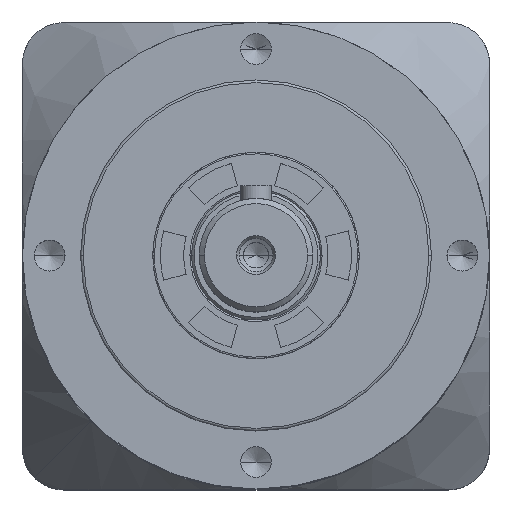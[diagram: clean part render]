
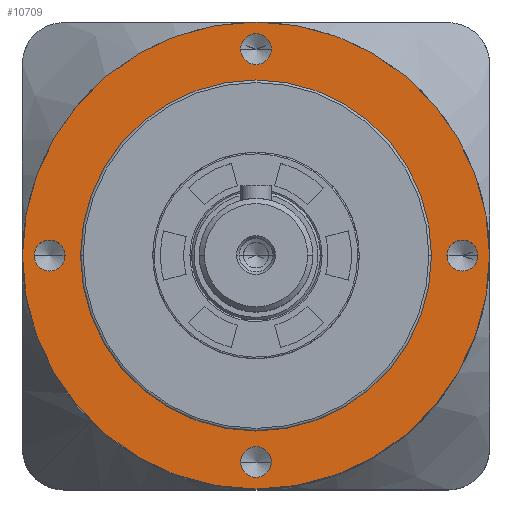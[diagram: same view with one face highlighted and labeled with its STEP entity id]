
A CAD part, top view. The second image highlights one B-rep face of the part: STEP entity #10709.
In plain terms, the highlighted planar face has unit normal (0, 0, 1).
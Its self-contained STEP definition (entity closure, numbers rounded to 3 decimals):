
#326 = ORIENTED_EDGE ( 'NONE', *, *, #792, .F. ) ;
#351 = DIRECTION ( 'NONE',  ( 0., 0., 1. ) ) ;
#544 = VERTEX_POINT ( 'NONE', #15937 ) ;
#735 = VERTEX_POINT ( 'NONE', #11621 ) ;
#780 = VERTEX_POINT ( 'NONE', #9848 ) ;
#792 = EDGE_CURVE ( 'NONE', #1999, #4592, #27324, .T. ) ;
#1933 = VERTEX_POINT ( 'NONE', #14924 ) ;
#1999 = VERTEX_POINT ( 'NONE', #8243 ) ;
#2193 = CARTESIAN_POINT ( 'NONE',  ( 0., 40., 18.1 ) ) ;
#2371 = DIRECTION ( 'NONE',  ( 1., 0., 0. ) ) ;
#2492 = CARTESIAN_POINT ( 'NONE',  ( -37., 0., 18.1 ) ) ;
#3125 = CARTESIAN_POINT ( 'NONE',  ( 0., 0., 18.1 ) ) ;
#3374 = CARTESIAN_POINT ( 'NONE',  ( 43., 0., 18.1 ) ) ;
#3421 = CARTESIAN_POINT ( 'NONE',  ( 34., 0., 18.1 ) ) ;
#3716 = CARTESIAN_POINT ( 'NONE',  ( 40., 0., 18.1 ) ) ;
#4041 = DIRECTION ( 'NONE',  ( 0., 0., 1. ) ) ;
#4100 = FACE_OUTER_BOUND ( 'NONE', #29714, .T. ) ;
#4246 = CARTESIAN_POINT ( 'NONE',  ( 40., 0., 18.1 ) ) ;
#4592 = VERTEX_POINT ( 'NONE', #5489 ) ;
#4752 = AXIS2_PLACEMENT_3D ( 'NONE', #3716, #28051, #27734 ) ;
#5216 = ORIENTED_EDGE ( 'NONE', *, *, #6518, .F. ) ;
#5489 = CARTESIAN_POINT ( 'NONE',  ( 3., -40., 18.1 ) ) ;
#5672 = DIRECTION ( 'NONE',  ( 0., 0., 1. ) ) ;
#5993 = FACE_BOUND ( 'NONE', #10268, .T. ) ;
#6024 = VERTEX_POINT ( 'NONE', #16745 ) ;
#6518 = EDGE_CURVE ( 'NONE', #26445, #780, #15346, .T. ) ;
#7509 = EDGE_CURVE ( 'NONE', #24962, #544, #26744, .T. ) ;
#7535 = FACE_BOUND ( 'NONE', #15929, .T. ) ;
#7576 = CARTESIAN_POINT ( 'NONE',  ( 0., 0., 18.1 ) ) ;
#7599 = EDGE_CURVE ( 'NONE', #4592, #1999, #29773, .T. ) ;
#8243 = CARTESIAN_POINT ( 'NONE',  ( -3., -40., 18.1 ) ) ;
#8369 = DIRECTION ( 'NONE',  ( 0., 0., 1. ) ) ;
#8623 = CARTESIAN_POINT ( 'NONE',  ( 0., 40., 18.1 ) ) ;
#8966 = ORIENTED_EDGE ( 'NONE', *, *, #24125, .F. ) ;
#9169 = AXIS2_PLACEMENT_3D ( 'NONE', #28939, #12028, #2371 ) ;
#9406 = ORIENTED_EDGE ( 'NONE', *, *, #17668, .T. ) ;
#9435 = EDGE_CURVE ( 'NONE', #1933, #20599, #17577, .T. ) ;
#9845 = FACE_BOUND ( 'NONE', #10499, .T. ) ;
#9848 = CARTESIAN_POINT ( 'NONE',  ( 37., 0., 18.1 ) ) ;
#10265 = DIRECTION ( 'NONE',  ( 1., 0., 0. ) ) ;
#10268 = EDGE_LOOP ( 'NONE', ( #23579, #30532 ) ) ;
#10439 = DIRECTION ( 'NONE',  ( 1., 0., 0. ) ) ;
#10499 = EDGE_LOOP ( 'NONE', ( #11263, #8966 ) ) ;
#10529 = CARTESIAN_POINT ( 'NONE',  ( 0., -40., 18.1 ) ) ;
#10689 = CIRCLE ( 'NONE', #31151, 3. ) ;
#10709 = ADVANCED_FACE ( 'NONE', ( #23970, #7535, #19804, #5993, #9845, #4100 ), #27602, .T. ) ;
#11263 = ORIENTED_EDGE ( 'NONE', *, *, #9435, .F. ) ;
#11429 = DIRECTION ( 'NONE',  ( 1., 0., 0. ) ) ;
#11621 = CARTESIAN_POINT ( 'NONE',  ( 45.25, 0., 18.1 ) ) ;
#11765 = DIRECTION ( 'NONE',  ( 0., 0., 1. ) ) ;
#12028 = DIRECTION ( 'NONE',  ( 0., 0., 1. ) ) ;
#12711 = CIRCLE ( 'NONE', #17641, 3. ) ;
#13230 = CARTESIAN_POINT ( 'NONE',  ( 0., 0., 18.1 ) ) ;
#13923 = AXIS2_PLACEMENT_3D ( 'NONE', #8623, #4041, #11429 ) ;
#14098 = AXIS2_PLACEMENT_3D ( 'NONE', #24359, #17243, #26702 ) ;
#14243 = CIRCLE ( 'NONE', #26019, 45.25 ) ;
#14657 = AXIS2_PLACEMENT_3D ( 'NONE', #10529, #25161, #14816 ) ;
#14816 = DIRECTION ( 'NONE',  ( 1., 0., 0. ) ) ;
#14924 = CARTESIAN_POINT ( 'NONE',  ( -34., 0., 18.1 ) ) ;
#15346 = CIRCLE ( 'NONE', #4752, 3. ) ;
#15481 = DIRECTION ( 'NONE',  ( 1., 0., 0. ) ) ;
#15580 = EDGE_CURVE ( 'NONE', #22499, #6024, #23057, .T. ) ;
#15685 = AXIS2_PLACEMENT_3D ( 'NONE', #2193, #31440, #21548 ) ;
#15929 = EDGE_LOOP ( 'NONE', ( #17019, #326 ) ) ;
#15937 = CARTESIAN_POINT ( 'NONE',  ( -3., 40., 18.1 ) ) ;
#16145 = CIRCLE ( 'NONE', #18852, 45.25 ) ;
#16364 = DIRECTION ( 'NONE',  ( 1., 0., 0. ) ) ;
#16745 = CARTESIAN_POINT ( 'NONE',  ( -43., 0., 18.1 ) ) ;
#17019 = ORIENTED_EDGE ( 'NONE', *, *, #7599, .F. ) ;
#17243 = DIRECTION ( 'NONE',  ( 0., 0., 1. ) ) ;
#17577 = CIRCLE ( 'NONE', #31293, 34. ) ;
#17641 = AXIS2_PLACEMENT_3D ( 'NONE', #26333, #31534, #21640 ) ;
#17668 = EDGE_CURVE ( 'NONE', #21715, #735, #16145, .T. ) ;
#17995 = EDGE_CURVE ( 'NONE', #544, #24962, #23764, .T. ) ;
#18475 = EDGE_LOOP ( 'NONE', ( #28526, #31169 ) ) ;
#18852 = AXIS2_PLACEMENT_3D ( 'NONE', #7576, #351, #10265 ) ;
#19626 = EDGE_CURVE ( 'NONE', #6024, #22499, #12711, .T. ) ;
#19804 = FACE_BOUND ( 'NONE', #18475, .T. ) ;
#19931 = EDGE_CURVE ( 'NONE', #735, #21715, #14243, .T. ) ;
#20599 = VERTEX_POINT ( 'NONE', #3421 ) ;
#21318 = AXIS2_PLACEMENT_3D ( 'NONE', #13230, #8369, #10439 ) ;
#21548 = DIRECTION ( 'NONE',  ( 1., 0., 0. ) ) ;
#21640 = DIRECTION ( 'NONE',  ( 1., 0., 0. ) ) ;
#21715 = VERTEX_POINT ( 'NONE', #28371 ) ;
#22420 = CARTESIAN_POINT ( 'NONE',  ( 0., 0., 18.1 ) ) ;
#22499 = VERTEX_POINT ( 'NONE', #2492 ) ;
#22625 = DIRECTION ( 'NONE',  ( 1., 0., 0. ) ) ;
#22947 = EDGE_CURVE ( 'NONE', #780, #26445, #10689, .T. ) ;
#23057 = CIRCLE ( 'NONE', #9169, 3. ) ;
#23579 = ORIENTED_EDGE ( 'NONE', *, *, #7509, .F. ) ;
#23764 = CIRCLE ( 'NONE', #13923, 3. ) ;
#23822 = AXIS2_PLACEMENT_3D ( 'NONE', #29748, #30056, #15481 ) ;
#23970 = FACE_BOUND ( 'NONE', #31268, .T. ) ;
#24125 = EDGE_CURVE ( 'NONE', #20599, #1933, #30871, .T. ) ;
#24359 = CARTESIAN_POINT ( 'NONE',  ( 0., -40., 18.1 ) ) ;
#24719 = CARTESIAN_POINT ( 'NONE',  ( 3., 40., 18.1 ) ) ;
#24962 = VERTEX_POINT ( 'NONE', #24719 ) ;
#25161 = DIRECTION ( 'NONE',  ( 0., 0., 1. ) ) ;
#26019 = AXIS2_PLACEMENT_3D ( 'NONE', #3125, #5672, #29917 ) ;
#26333 = CARTESIAN_POINT ( 'NONE',  ( -40., 0., 18.1 ) ) ;
#26445 = VERTEX_POINT ( 'NONE', #3374 ) ;
#26702 = DIRECTION ( 'NONE',  ( 1., 0., 0. ) ) ;
#26744 = CIRCLE ( 'NONE', #15685, 3. ) ;
#27324 = CIRCLE ( 'NONE', #14098, 3. ) ;
#27602 = PLANE ( 'NONE',  #21318 ) ;
#27734 = DIRECTION ( 'NONE',  ( 1., 0., 0. ) ) ;
#28051 = DIRECTION ( 'NONE',  ( 0., 0., 1. ) ) ;
#28371 = CARTESIAN_POINT ( 'NONE',  ( -45.25, 0., 18.1 ) ) ;
#28526 = ORIENTED_EDGE ( 'NONE', *, *, #15580, .F. ) ;
#28939 = CARTESIAN_POINT ( 'NONE',  ( -40., 0., 18.1 ) ) ;
#29415 = DIRECTION ( 'NONE',  ( 0., 0., 1. ) ) ;
#29648 = ORIENTED_EDGE ( 'NONE', *, *, #22947, .F. ) ;
#29714 = EDGE_LOOP ( 'NONE', ( #30621, #9406 ) ) ;
#29748 = CARTESIAN_POINT ( 'NONE',  ( 0., 0., 18.1 ) ) ;
#29773 = CIRCLE ( 'NONE', #14657, 3. ) ;
#29917 = DIRECTION ( 'NONE',  ( 1., 0., 0. ) ) ;
#30056 = DIRECTION ( 'NONE',  ( 0., 0., 1. ) ) ;
#30532 = ORIENTED_EDGE ( 'NONE', *, *, #17995, .F. ) ;
#30621 = ORIENTED_EDGE ( 'NONE', *, *, #19931, .T. ) ;
#30871 = CIRCLE ( 'NONE', #23822, 34. ) ;
#31151 = AXIS2_PLACEMENT_3D ( 'NONE', #4246, #11765, #16364 ) ;
#31169 = ORIENTED_EDGE ( 'NONE', *, *, #19626, .F. ) ;
#31268 = EDGE_LOOP ( 'NONE', ( #5216, #29648 ) ) ;
#31293 = AXIS2_PLACEMENT_3D ( 'NONE', #22420, #29415, #22625 ) ;
#31440 = DIRECTION ( 'NONE',  ( 0., 0., 1. ) ) ;
#31534 = DIRECTION ( 'NONE',  ( 0., 0., 1. ) ) ;
